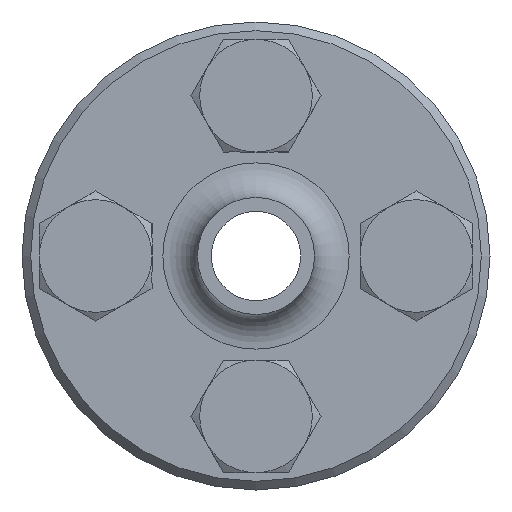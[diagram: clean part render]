
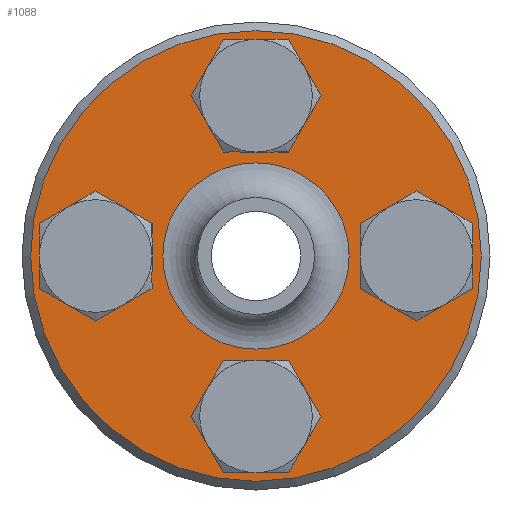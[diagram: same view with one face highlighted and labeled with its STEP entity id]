
A CAD part, front view. The second image highlights one B-rep face of the part: STEP entity #1088.
In plain terms, the highlighted planar face has unit normal (0, -1, 0).
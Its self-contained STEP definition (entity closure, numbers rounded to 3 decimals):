
#152=PLANE('',#1195);
#211=FACE_BOUND('',#381,.T.);
#212=FACE_BOUND('',#382,.T.);
#213=FACE_BOUND('',#383,.T.);
#214=FACE_BOUND('',#384,.T.);
#215=FACE_BOUND('',#385,.T.);
#280=FACE_OUTER_BOUND('',#380,.T.);
#380=EDGE_LOOP('',(#812));
#381=EDGE_LOOP('',(#813));
#382=EDGE_LOOP('',(#814));
#383=EDGE_LOOP('',(#815));
#384=EDGE_LOOP('',(#816));
#385=EDGE_LOOP('',(#817));
#491=CIRCLE('',#1155,4.5);
#493=CIRCLE('',#1158,4.5);
#495=CIRCLE('',#1161,4.5);
#497=CIRCLE('',#1164,4.5);
#513=CIRCLE('',#1194,26.);
#514=CIRCLE('',#1196,10.75);
#563=VERTEX_POINT('',#1674);
#565=VERTEX_POINT('',#1679);
#567=VERTEX_POINT('',#1684);
#569=VERTEX_POINT('',#1689);
#585=VERTEX_POINT('',#1735);
#586=VERTEX_POINT('',#1738);
#658=EDGE_CURVE('',#563,#563,#491,.T.);
#660=EDGE_CURVE('',#565,#565,#493,.T.);
#662=EDGE_CURVE('',#567,#567,#495,.T.);
#664=EDGE_CURVE('',#569,#569,#497,.T.);
#680=EDGE_CURVE('',#585,#585,#513,.T.);
#681=EDGE_CURVE('',#586,#586,#514,.T.);
#812=ORIENTED_EDGE('',*,*,#680,.T.);
#813=ORIENTED_EDGE('',*,*,#658,.T.);
#814=ORIENTED_EDGE('',*,*,#660,.T.);
#815=ORIENTED_EDGE('',*,*,#662,.T.);
#816=ORIENTED_EDGE('',*,*,#664,.T.);
#817=ORIENTED_EDGE('',*,*,#681,.F.);
#1088=ADVANCED_FACE('',(#280,#211,#212,#213,#214,#215),#152,.T.);
#1155=AXIS2_PLACEMENT_3D('',#1675,#1324,#1325);
#1158=AXIS2_PLACEMENT_3D('',#1680,#1330,#1331);
#1161=AXIS2_PLACEMENT_3D('',#1685,#1336,#1337);
#1164=AXIS2_PLACEMENT_3D('',#1690,#1342,#1343);
#1194=AXIS2_PLACEMENT_3D('',#1736,#1402,#1403);
#1195=AXIS2_PLACEMENT_3D('',#1737,#1404,#1405);
#1196=AXIS2_PLACEMENT_3D('',#1739,#1406,#1407);
#1324=DIRECTION('center_axis',(0.,1.,0.));
#1325=DIRECTION('ref_axis',(0.,0.,1.));
#1330=DIRECTION('center_axis',(0.,1.,0.));
#1331=DIRECTION('ref_axis',(1.,0.,0.));
#1336=DIRECTION('center_axis',(0.,1.,0.));
#1337=DIRECTION('ref_axis',(0.,0.,-1.));
#1342=DIRECTION('center_axis',(0.,1.,0.));
#1343=DIRECTION('ref_axis',(-1.,0.,0.));
#1402=DIRECTION('center_axis',(0.,-1.,0.));
#1403=DIRECTION('ref_axis',(1.,0.,0.));
#1404=DIRECTION('center_axis',(0.,-1.,0.));
#1405=DIRECTION('ref_axis',(0.,0.,-1.));
#1406=DIRECTION('center_axis',(0.,-1.,0.));
#1407=DIRECTION('ref_axis',(1.,0.,0.));
#1674=CARTESIAN_POINT('',(-18.5,30.,-4.5));
#1675=CARTESIAN_POINT('Origin',(-18.5,30.,0.));
#1679=CARTESIAN_POINT('',(-4.5,30.,18.5));
#1680=CARTESIAN_POINT('Origin',(0.,30.,18.5));
#1684=CARTESIAN_POINT('',(18.5,30.,4.5));
#1685=CARTESIAN_POINT('Origin',(18.5,30.,0.));
#1689=CARTESIAN_POINT('',(4.5,30.,-18.5));
#1690=CARTESIAN_POINT('Origin',(0.,30.,-18.5));
#1735=CARTESIAN_POINT('',(26.,30.,0.));
#1736=CARTESIAN_POINT('Origin',(0.,30.,0.));
#1737=CARTESIAN_POINT('Origin',(18.375,30.,0.));
#1738=CARTESIAN_POINT('',(10.75,30.,0.));
#1739=CARTESIAN_POINT('Origin',(0.,30.,0.));
